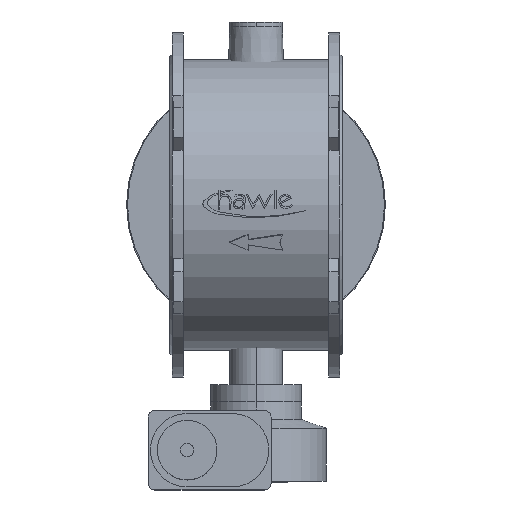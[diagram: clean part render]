
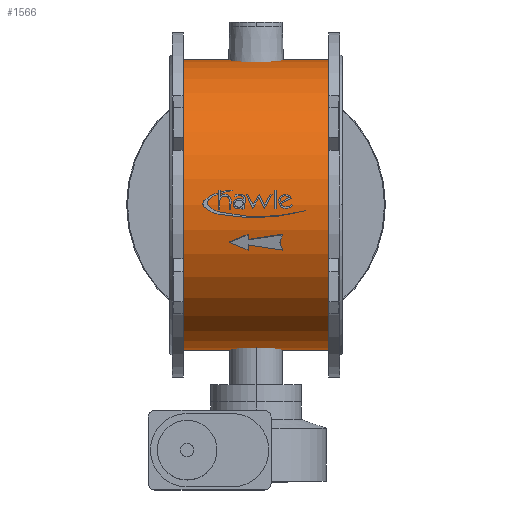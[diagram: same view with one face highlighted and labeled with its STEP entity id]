
A CAD part, top view. The second image highlights one B-rep face of the part: STEP entity #1566.
In plain terms, the highlighted cylindrical face has radius 329 mm (diameter 658 mm), a partial arc.
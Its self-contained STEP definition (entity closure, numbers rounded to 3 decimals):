
#1566=ADVANCED_FACE('',(#3025),#3026,.T.);
#3025=FACE_OUTER_BOUND('',#4750,.T.);
#3026=CYLINDRICAL_SURFACE('',#4751,329.0);
#4750=EDGE_LOOP('',(#7629,#7630,#7631,#7632));
#4751=AXIS2_PLACEMENT_3D('',#7633,#7634,#7635);
#7629=ORIENTED_EDGE('',*,*,#10148,.T.);
#7630=ORIENTED_EDGE('',*,*,#10149,.T.);
#7631=ORIENTED_EDGE('',*,*,#10150,.T.);
#7632=ORIENTED_EDGE('',*,*,#10151,.T.);
#7633=CARTESIAN_POINT('',(-360.0,0.,0.0));
#7634=DIRECTION('',(1.0,0.,0.0));
#7635=DIRECTION('',(0.,-1.0,0.0));
#10148=EDGE_CURVE('',#12215,#12216,#12217,.T.);
#10149=EDGE_CURVE('',#12216,#12218,#12219,.T.);
#10150=EDGE_CURVE('',#12218,#12220,#12221,.T.);
#10151=EDGE_CURVE('',#12220,#12215,#12222,.T.);
#12215=VERTEX_POINT('',#14797);
#12216=VERTEX_POINT('',#14798);
#12217=LINE('',#14799,#14800);
#12218=VERTEX_POINT('',#14801);
#12219=CIRCLE('',#14802,329.0);
#12220=VERTEX_POINT('',#14803);
#12221=LINE('',#14804,#14805);
#12222=CIRCLE('',#14806,329.0);
#14797=CARTESIAN_POINT('',(-360.0,-329.0,0.0));
#14798=CARTESIAN_POINT('',(-30.0,-329.0,0.0));
#14799=CARTESIAN_POINT('',(-360.0,-329.0,0.));
#14800=VECTOR('',#16757,1.0);
#14801=CARTESIAN_POINT('',(-30.0,329.0,0.));
#14802=AXIS2_PLACEMENT_3D('',#16758,#16759,#16760);
#14803=CARTESIAN_POINT('',(-360.0,329.0,0.));
#14804=CARTESIAN_POINT('',(-360.0,329.0,0.));
#14805=VECTOR('',#16761,1.0);
#14806=AXIS2_PLACEMENT_3D('',#16762,#16763,#16764);
#16757=DIRECTION('',(1.0,0.,0.0));
#16758=CARTESIAN_POINT('',(-30.0,0.,0.0));
#16759=DIRECTION('',(-1.0,0.,0.0));
#16760=DIRECTION('',(0.,-1.0,0.0));
#16761=DIRECTION('',(-1.0,0.,-0.0));
#16762=CARTESIAN_POINT('',(-360.0,0.,0.0));
#16763=DIRECTION('',(1.0,0.,0.0));
#16764=DIRECTION('',(0.,-1.0,0.0));
